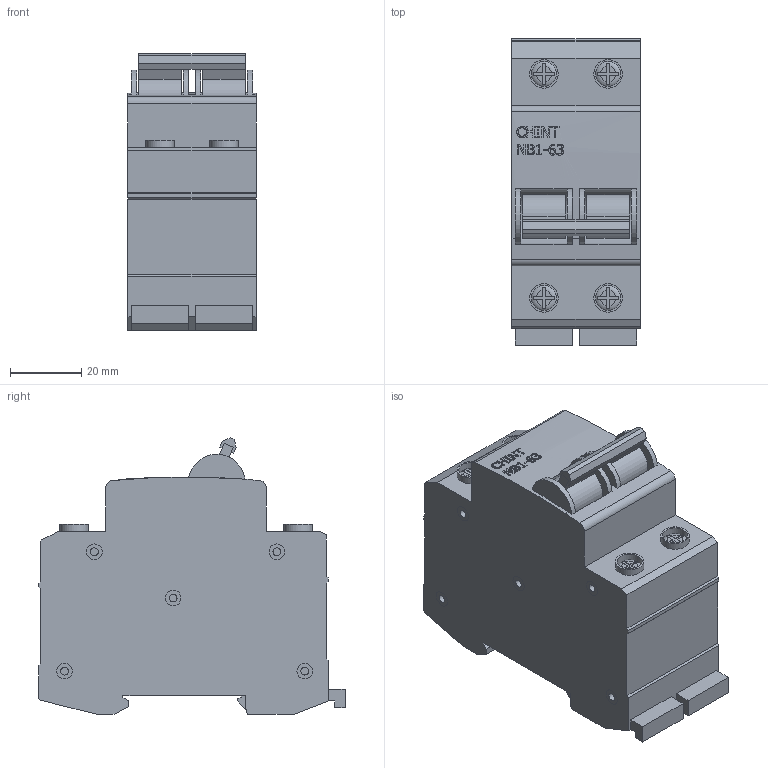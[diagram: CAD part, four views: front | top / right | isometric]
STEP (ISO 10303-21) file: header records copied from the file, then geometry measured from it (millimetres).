
FILE_DESCRIPTION(/* description */ (''),/* implementation_level */ '2;1');
FILE_NAME(/* name */ 'D:\CHINT\NB1-63\Авт. выкл. NB1-63 2P 16A 6кА х-ка B (DB) (CHINT).stp',/* time_stamp */ '2017-09-03T19:29:59+04:00',/* author */ ('RSagdiev'),/* organization */ (''),/* preprocessor_version */ 'ST-DEVELOPER v16.5',/* originating_system */ 'Autodesk Inventor 2017',/* authorisation */ '');
FILE_SCHEMA (('AUTOMOTIVE_DESIGN { 1 0 10303 214 3 1 1 }'));
Length unit declared in the file: millimetre
Products named in the file (1): Авт. выкл. NB1-63 2P 16A 6\X2\043A
0410\X0\ х-ка B (DB) (CHINT)
Bounding box: 36 x 86 x 77.58 mm (x, y, z)
Volume: 166216.6 mm3; surface area: 29664.7 mm2
Topology: 30 solids, 35 shells, 519 faces, 1224 edges, 812 vertices
Faces by surface type: plane 349, cylinder 97, bspline 69, torus 4
Full cylindrical faces by diameter (mm): 2.211 x30, 4.422 x30, 7 x4, 8 x4
Entity records: 15863 total; most frequent: CARTESIAN_POINT 4225, ORIENTED_EDGE 2296, DIRECTION 2246, EDGE_CURVE 1148, VERTEX_POINT 808, AXIS2_PLACEMENT_3D 785, LINE 676, VECTOR 676
